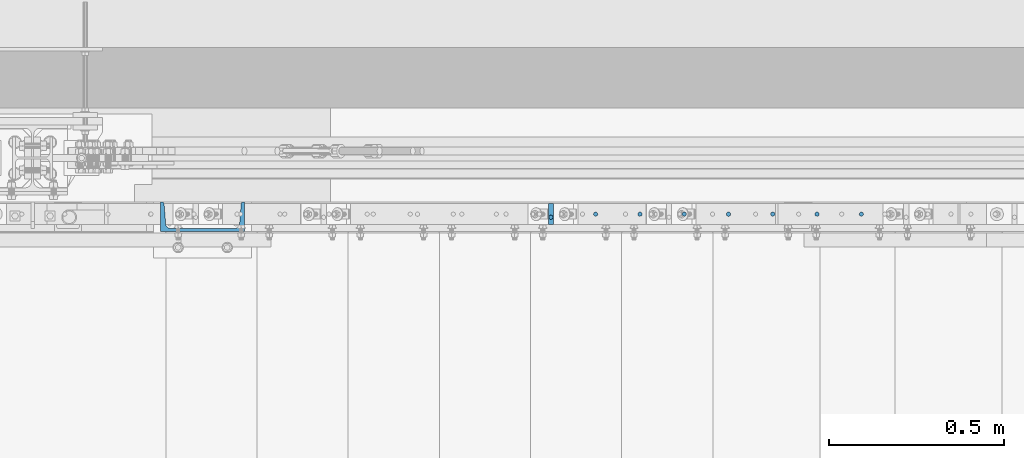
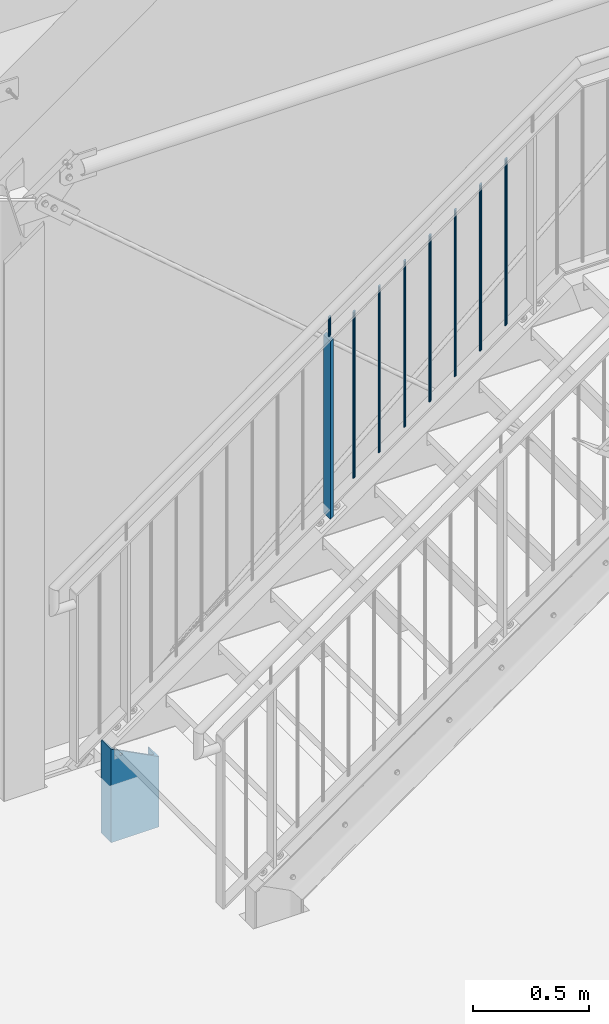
# One storey, part 78 of 825: 10 columns, 1 opening.
"""IFC2X3 building model written with IfcOpenShell, lengths in millimetres."""

from ifc_helpers import new_model, entity, si_unit, converted_unit, frame, frame_2d, origin, origin_with_axes, origin_2d, origin_2d_with_axis, place, context, project, spatial, rectangle, circle, u_section, extrude, clip, halfspace, material, element, save


model = new_model("IFC2X3")

# Units and contexts
model_context = context("Model", 3, precision=1e-09, world=origin_with_axes())
ifc_project = project(units=[si_unit("LENGTHUNIT", "METRE", prefix="MILLI"), si_unit("AREAUNIT", "SQUARE_METRE"), si_unit("VOLUMEUNIT", "CUBIC_METRE"), converted_unit("PLANEANGLEUNIT", "DEGREE", entity("IfcPlaneAngleMeasure", 0.01745329), si_unit("PLANEANGLEUNIT", "RADIAN"), dimensions=[0, 0, 0, 0, 0, 0, 0])], contexts=[model_context])

# Site, building, storey
site_placement = place(None, origin_with_axes())
site = spatial("IfcSite", under=ifc_project, at=site_placement, Name="Cnopf'sche Kinderklinik", CompositionType="ELEMENT")
building_placement = place(site_placement, origin_with_axes())
building = spatial("IfcBuilding", under=site, at=building_placement, Name="Struktur 1", CompositionType="ELEMENT")
storey_placement = place(building_placement, origin_with_axes())
storey = spatial("IfcBuildingStorey", under=building, at=storey_placement, Name="Default Storey", CompositionType="ELEMENT", Elevation=0.0)

# Columns
ifc_material = material(Name="S235JR")
column_1_placement = place(None, frame((6334.789990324, 7356.736971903, 2336.5338827), z_axis=(0.0, 0.0, 1.0), x_axis=(1.0, 0.0, 0.0)))
element("IfcColumn", 1, at=column_1_placement, inside=storey, material=ifc_material, Name="Railing_Post_Stair#1", ObjectType="Railing_Post_Stair#1", context=model_context, shape_type="Clipping", body=[
    clip(clip(extrude(rectangle(XDim=15.0, YDim=60.0, at=origin_2d()), origin(), (0.0, 0.0, -1.0), 1013.069146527), halfspace(frame((-4847.186824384, -7356.736971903, -4426.03050996), z_axis=(-0.579973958, 0.0, 0.814635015), x_axis=(0.0, -1.0, 0.0)), True)), halfspace(frame((-5289.958091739, -7356.736971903, -3804.111243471), z_axis=(0.579973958, 0.0, -0.814635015), x_axis=(0.0, 1.0, 0.0)), True)),
])
column_2_placement = place(None, frame((6462.549990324, 7356.736971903, 2399.948124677), z_axis=(0.0, 0.0, 1.0), x_axis=(1.0, 0.0, 0.0)))
element("IfcColumn", 2, at=column_2_placement, inside=storey, material=ifc_material, Name="Railing_Picket_Stair#7", ObjectType="Railing_Picket_Stair#7", context=model_context, shape_type="Clipping", body=[
    clip(clip(extrude(circle(Radius=6.0, at=origin_2d()), origin(), (0.0, 0.0, -1.0), 896.604693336), halfspace(frame((-5417.718091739, -7356.736971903, -3867.525485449), z_axis=(0.579973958, 0.0, -0.814635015), x_axis=(0.0, 1.0, 0.0)), True)), halfspace(frame((-5003.94552226, -7356.736971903, -4448.713001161), z_axis=(-0.579973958, 0.0, 0.814635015), x_axis=(0.0, -1.0, 0.0)), True)),
])
column_3_placement = place(None, frame((6588.809509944, 7356.736971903, 2489.837746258), z_axis=(0.0, 0.0, 1.0), x_axis=(1.0, 0.0, 0.0)))
element("IfcColumn", 3, at=column_3_placement, inside=storey, material=ifc_material, Name="Railing_Picket_Stair#8", ObjectType="Railing_Picket_Stair#8", context=model_context, shape_type="Clipping", body=[
    clip(clip(extrude(circle(Radius=6.0, at=origin_2d()), origin(), (0.0, 0.0, -1.0), 896.604693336), halfspace(frame((-5543.97761136, -7356.736971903, -3957.415107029), z_axis=(0.579973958, 0.0, -0.814635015), x_axis=(0.0, 1.0, 0.0)), True)), halfspace(frame((-5130.205041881, -7356.736971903, -4538.602622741), z_axis=(-0.579973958, 0.0, 0.814635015), x_axis=(0.0, -1.0, 0.0)), True)),
])
column_4_placement = place(None, frame((6715.069029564, 7356.736971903, 2579.727367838), z_axis=(0.0, 0.0, 1.0), x_axis=(1.0, 0.0, 0.0)))
element("IfcColumn", 4, at=column_4_placement, inside=storey, material=ifc_material, Name="Railing_Picket_Stair#9", ObjectType="Railing_Picket_Stair#9", context=model_context, shape_type="Clipping", body=[
    clip(clip(extrude(circle(Radius=6.0, at=origin_2d()), origin(), (0.0, 0.0, -1.0), 896.604693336), halfspace(frame((-5670.23713098, -7356.736971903, -4047.304728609), z_axis=(0.579973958, 0.0, -0.814635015), x_axis=(0.0, 1.0, 0.0)), True)), halfspace(frame((-5256.464561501, -7356.736971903, -4628.492244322), z_axis=(-0.579973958, 0.0, 0.814635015), x_axis=(0.0, -1.0, 0.0)), True)),
])
column_5_placement = place(None, frame((6841.328549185, 7356.736971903, 2669.616989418), z_axis=(0.0, 0.0, 1.0), x_axis=(1.0, 0.0, 0.0)))
element("IfcColumn", 5, at=column_5_placement, inside=storey, material=ifc_material, Name="Railing_Picket_Stair#10", ObjectType="Railing_Picket_Stair#10", context=model_context, shape_type="Clipping", body=[
    clip(clip(extrude(circle(Radius=6.0, at=origin_2d()), origin(), (0.0, 0.0, -1.0), 896.604693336), halfspace(frame((-5796.4966506, -7356.736971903, -4137.194350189), z_axis=(0.579973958, 0.0, -0.814635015), x_axis=(0.0, 1.0, 0.0)), True)), halfspace(frame((-5382.724081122, -7356.736971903, -4718.381865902), z_axis=(-0.579973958, 0.0, 0.814635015), x_axis=(0.0, -1.0, 0.0)), True)),
])
column_6_placement = place(None, frame((6967.588068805, 7356.736971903, 2759.506610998), z_axis=(0.0, 0.0, 1.0), x_axis=(1.0, 0.0, 0.0)))
element("IfcColumn", 6, at=column_6_placement, inside=storey, material=ifc_material, Name="Railing_Picket_Stair#11", ObjectType="Railing_Picket_Stair#11", context=model_context, shape_type="Clipping", body=[
    clip(clip(extrude(circle(Radius=6.0, at=origin_2d()), origin(), (0.0, 0.0, -1.0), 896.604693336), halfspace(frame((-5922.756170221, -7356.736971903, -4227.08397177), z_axis=(0.579973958, 0.0, -0.814635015), x_axis=(0.0, 1.0, 0.0)), True)), halfspace(frame((-5508.983600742, -7356.736971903, -4808.271487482), z_axis=(-0.579973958, 0.0, 0.814635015), x_axis=(0.0, -1.0, 0.0)), True)),
])
column_7_placement = place(None, frame((7093.847588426, 7356.736971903, 2849.396232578), z_axis=(0.0, 0.0, 1.0), x_axis=(1.0, 0.0, 0.0)))
element("IfcColumn", 7, at=column_7_placement, inside=storey, material=ifc_material, Name="Railing_Picket_Stair#12", ObjectType="Railing_Picket_Stair#12", context=model_context, shape_type="Clipping", body=[
    clip(clip(extrude(circle(Radius=6.0, at=origin_2d()), origin(), (0.0, 0.0, -1.0), 896.604693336), halfspace(frame((-6049.015689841, -7356.736971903, -4316.97359335), z_axis=(0.579973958, 0.0, -0.814635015), x_axis=(0.0, 1.0, 0.0)), True)), halfspace(frame((-5635.243120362, -7356.736971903, -4898.161109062), z_axis=(-0.579973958, 0.0, 0.814635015), x_axis=(0.0, -1.0, 0.0)), True)),
])
column_8_placement = place(None, frame((7220.107108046, 7356.736971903, 2939.285854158), z_axis=(0.0, 0.0, 1.0), x_axis=(1.0, 0.0, 0.0)))
element("IfcColumn", 8, at=column_8_placement, inside=storey, material=ifc_material, Name="Railing_Picket_Stair#13", ObjectType="Railing_Picket_Stair#13", context=model_context, shape_type="Clipping", body=[
    clip(clip(extrude(circle(Radius=6.0, at=origin_2d()), origin(), (0.0, 0.0, -1.0), 896.604693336), halfspace(frame((-6175.275209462, -7356.736971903, -4406.86321493), z_axis=(0.579973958, 0.0, -0.814635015), x_axis=(0.0, 1.0, 0.0)), True)), halfspace(frame((-5761.502639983, -7356.736971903, -4988.050730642), z_axis=(-0.579973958, 0.0, 0.814635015), x_axis=(0.0, -1.0, 0.0)), True)),
])
column_9_placement = place(None, frame((6334.789990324, 7347.936971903, 2421.265682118), z_axis=(0.0, 0.0, 1.0), x_axis=(0.0, -1.0, 0.0)))
element("IfcColumn", 9, at=column_9_placement, inside=storey, material=ifc_material, Name="Bar#1", ObjectType="Bar#1", context=model_context, shape_type="Clipping", body=[
    clip(clip(extrude(circle(Radius=6.0, at=origin_2d()), origin(), (0.0, 0.0, -1.0), 120.832105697), halfspace(frame((7347.936971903, -5295.758991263, -3880.695063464), z_axis=(0.0, -0.579973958, 0.814635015), x_axis=(1.0, 0.0, 0.0)), True)), halfspace(frame((7347.936971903, -5343.004540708, -3814.333671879), z_axis=(0.0, 0.579973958, -0.814635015), x_axis=(-1.0, 0.0, 0.0)), True)),
])

# Column, opening
column_10_placement = place(None, frame((5341.713402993, 7329.036971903, 735.471854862), z_axis=(0.0, 0.0, 1.0), x_axis=(0.0, 1.0, 0.0)))
column_10 = element("IfcColumn", 10, at=column_10_placement, inside=storey, material=ifc_material, Name="Stringer", ObjectType="Stringer", context=model_context, shape_type="Clipping", body=[
    clip(extrude(u_section(Depth=240.0, FlangeWidth=85.0, WebThickness=9.5, FlangeThickness=13.0, FilletRadius=13.0, EdgeRadius=6.5, FlangeSlope=4.574, at=frame_2d((20.2, 0.0))), origin(), (0.0, 0.0, -1.0), 685.471854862), halfspace(frame((-7329.036971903, 4023.331766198, 1821.512085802), z_axis=(0.0, 0.458271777, -0.888812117), x_axis=(-1.0, 0.0, 0.0)), True)),
])
opening_placement = place(column_10_placement, frame((-22.8, 70.0, -235.366592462), z_axis=(1.0, 0.0, 0.0), x_axis=(0.0, -1.0, 0.0)))
element("IfcOpeningElement", 11, at=opening_placement, cuts=column_10, ObjectType="Opening", context=model_context, shape_type="SweptSolid", body=[
    extrude(circle(Radius=7.001, at=origin_2d_with_axis()), origin(), (0.0, 0.0, 1.0), 10.5),
])

save(model, "model.ifc")
